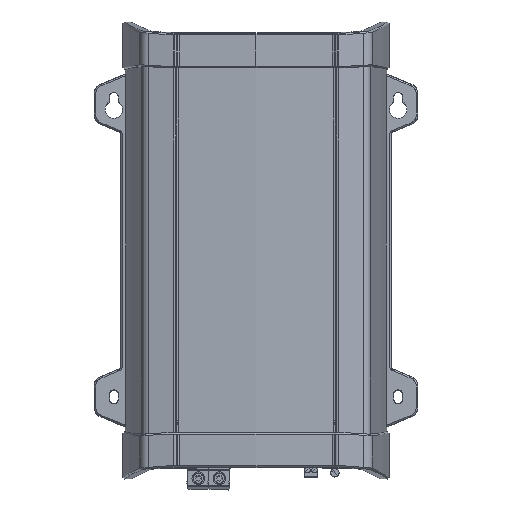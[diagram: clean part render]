
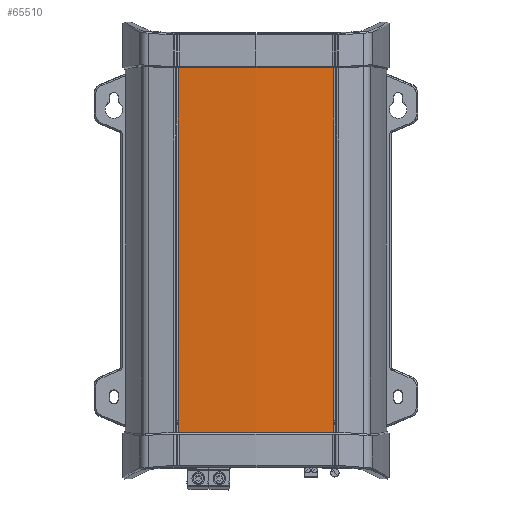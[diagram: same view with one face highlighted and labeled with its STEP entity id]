
A CAD part, top view. The second image highlights one B-rep face of the part: STEP entity #65510.
In plain terms, the highlighted cylindrical face has radius 852.8 mm (diameter 1705.6 mm), a partial arc.
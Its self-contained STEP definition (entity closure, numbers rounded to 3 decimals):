
#1517 = EDGE_CURVE ( 'NONE', #60005, #78894, #60219, .T. ) ;
#2462 = CARTESIAN_POINT ( 'NONE',  ( -55.579, 292.202, 114.626 ) ) ;
#11427 = CARTESIAN_POINT ( 'NONE',  ( 55.579, 292.202, 114.626 ) ) ;
#14620 = CARTESIAN_POINT ( 'NONE',  ( 0., 323.2, -736.361 ) ) ;
#14904 = CARTESIAN_POINT ( 'NONE',  ( -55.579, 292.202, 114.626 ) ) ;
#17906 = CARTESIAN_POINT ( 'NONE',  ( 18.553, 292.265, 117.044 ) ) ;
#19138 = EDGE_CURVE ( 'NONE', #78894, #70961, #48447, .T. ) ;
#23277 = DIRECTION ( 'NONE',  ( 0., 1., 0. ) ) ;
#29184 = CARTESIAN_POINT ( 'NONE',  ( -55.579, 30.998, 114.626 ) ) ;
#31764 = FACE_OUTER_BOUND ( 'NONE', #49244, .T. ) ;
#32141 = ORIENTED_EDGE ( 'NONE', *, *, #19138, .T. ) ;
#36636 = CARTESIAN_POINT ( 'NONE',  ( 18.553, 30.935, 117.044 ) ) ;
#37563 = LINE ( 'NONE', #70754, #98463 ) ;
#45964 = VERTEX_POINT ( 'NONE', #14904 ) ;
#48239 = CARTESIAN_POINT ( 'NONE',  ( -55.579, 30.998, 114.626 ) ) ;
#48447 = LINE ( 'NONE', #84467, #53113 ) ;
#49244 = EDGE_LOOP ( 'NONE', ( #60995, #60715, #99477, #32141 ) ) ;
#52427 = EDGE_CURVE ( 'NONE', #45964, #60005, #37563, .T. ) ;
#52975 = AXIS2_PLACEMENT_3D ( 'NONE', #14620, #68922, #85492 ) ;
#53032 = DIRECTION ( 'NONE',  ( 0., -1., 0. ) ) ;
#53113 = VECTOR ( 'NONE', #23277, 1000. ) ;
#57970 =( BOUNDED_CURVE ( )  B_SPLINE_CURVE ( 3, ( #104779, #17906, #87656, #2462 ),
 .UNSPECIFIED., .F., .F. ) 
 B_SPLINE_CURVE_WITH_KNOTS ( ( 4, 4 ),
 ( 3.076, 3.207 ),
 .UNSPECIFIED. ) 
 CURVE ( )  GEOMETRIC_REPRESENTATION_ITEM ( )  RATIONAL_B_SPLINE_CURVE ( ( 1., 0.999, 0.999, 1. ) ) 
 REPRESENTATION_ITEM ( '' )  );
#60005 = VERTEX_POINT ( 'NONE', #48239 ) ;
#60219 =( BOUNDED_CURVE ( )  B_SPLINE_CURVE ( 3, ( #29184, #64073, #36636, #88656 ),
 .UNSPECIFIED., .F., .F. ) 
 B_SPLINE_CURVE_WITH_KNOTS ( ( 4, 4 ),
 ( 6.218, 6.348 ),
 .UNSPECIFIED. ) 
 CURVE ( )  GEOMETRIC_REPRESENTATION_ITEM ( )  RATIONAL_B_SPLINE_CURVE ( ( 1., 0.999, 0.999, 1. ) ) 
 REPRESENTATION_ITEM ( '' )  );
#60715 = ORIENTED_EDGE ( 'NONE', *, *, #52427, .T. ) ;
#60995 = ORIENTED_EDGE ( 'NONE', *, *, #88362, .T. ) ;
#64073 = CARTESIAN_POINT ( 'NONE',  ( -18.553, 30.935, 117.044 ) ) ;
#65510 = ADVANCED_FACE ( 'NONE', ( #31764 ), #76908, .T. ) ;
#68922 = DIRECTION ( 'NONE',  ( 0., -1., 0. ) ) ;
#70754 = CARTESIAN_POINT ( 'NONE',  ( -55.579, 323.2, 114.626 ) ) ;
#70961 = VERTEX_POINT ( 'NONE', #11427 ) ;
#76908 = CYLINDRICAL_SURFACE ( 'NONE', #52975, 852.8 ) ;
#78894 = VERTEX_POINT ( 'NONE', #97441 ) ;
#84467 = CARTESIAN_POINT ( 'NONE',  ( 55.579, 323.2, 114.626 ) ) ;
#85492 = DIRECTION ( 'NONE',  ( 0., 0., -1. ) ) ;
#87656 = CARTESIAN_POINT ( 'NONE',  ( -18.553, 292.265, 117.044 ) ) ;
#88362 = EDGE_CURVE ( 'NONE', #70961, #45964, #57970, .T. ) ;
#88656 = CARTESIAN_POINT ( 'NONE',  ( 55.579, 30.998, 114.626 ) ) ;
#97441 = CARTESIAN_POINT ( 'NONE',  ( 55.579, 30.998, 114.626 ) ) ;
#98463 = VECTOR ( 'NONE', #53032, 1000. ) ;
#99477 = ORIENTED_EDGE ( 'NONE', *, *, #1517, .T. ) ;
#104779 = CARTESIAN_POINT ( 'NONE',  ( 55.579, 292.202, 114.626 ) ) ;
